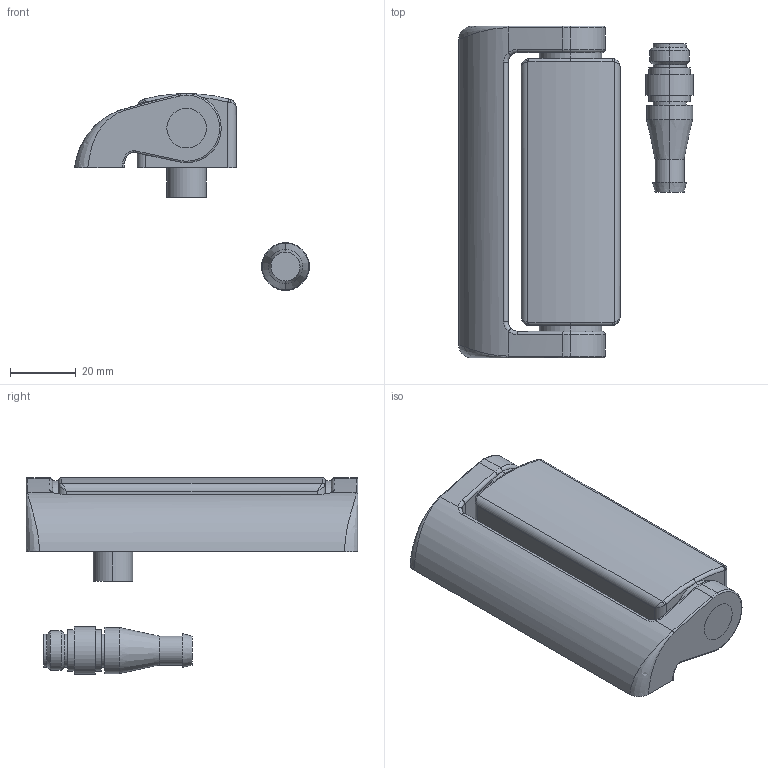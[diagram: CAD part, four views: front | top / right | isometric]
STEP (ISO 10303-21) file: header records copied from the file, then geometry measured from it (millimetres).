
FILE_DESCRIPTION (( 'STEP AP214' ), '1' );
FILE_NAME ('ZF_STEP_HP_AA0xxx-0.2PM_A15.step', '2018-06-29T06:28:06', ( 'Pizzato Elettrica' ), ( 'Microsoft' ), 'SwSTEP 2.0', 'SolidWorks 2014', '' );
FILE_SCHEMA (( 'AUTOMOTIVE_DESIGN' ));
Length unit declared in the file: millimetre
Products named in the file (5): Connettore_0.2PM_3240_3240; ZF_STEP_HP_AA0xxx-xPx_A15; Pizzato_Parte_Mobile_Hx_AA_Parte_mobile; Pizzato_Parte_Fissa_Hx_AA_Hx_AAxxx-xPx_no logo; ZF_STEP_HP_AA0xxx-0.2PM_A15
Assembly tree (4 placements, depth 3):
  ZF_STEP_HP_AA0xxx-0.2PM_A15
    ZF_STEP_HP_AA0xxx-xPx_A15
      Pizzato_Parte_Fissa_Hx_AA_Hx_AAxxx-xPx_no logo
      Pizzato_Parte_Mobile_Hx_AA_Parte_mobile
    Connettore_0.2PM_3240_3240
Bounding box: 71.25 x 100.6 x 59.75 mm (x, y, z)
Volume: 85398 mm3; surface area: 22411.3 mm2
Topology: 3 solids, 3 shells, 187 faces, 428 edges, 243 vertices
Faces by surface type: cylinder 85, torus 30, plane 29, cone 22, bspline 20, sphere 1
Entity records: 6222 total; most frequent: CARTESIAN_POINT 1829, DIRECTION 931, ORIENTED_EDGE 814, EDGE_CURVE 407, AXIS2_PLACEMENT_3D 397, VERTEX_POINT 243, CIRCLE 222, EDGE_LOOP 208
